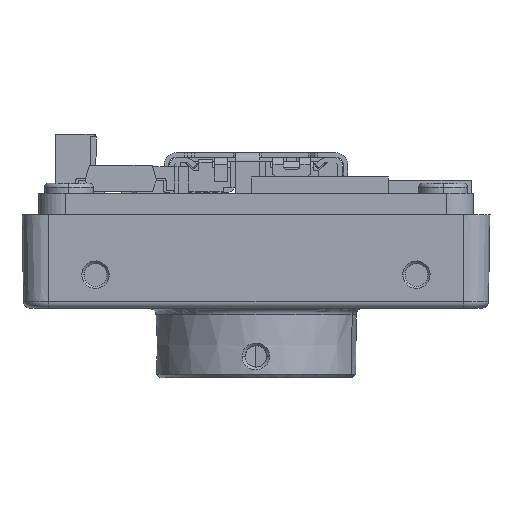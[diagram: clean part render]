
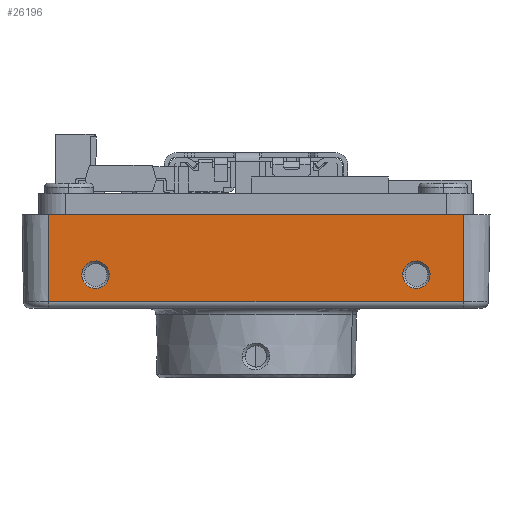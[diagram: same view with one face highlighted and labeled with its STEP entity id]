
A CAD part, left-side view. The second image highlights one B-rep face of the part: STEP entity #26196.
In plain terms, the highlighted planar face has unit normal (-1, 0, -0.018).
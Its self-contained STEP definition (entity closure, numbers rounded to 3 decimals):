
#934=DIRECTION('',(0.,1.,0.));
#935=VECTOR('',#934,31.);
#936=CARTESIAN_POINT('',(-17.386,-15.5,
-6.509));
#937=LINE('',#936,#935);
#938=DIRECTION('',(-0.017,0.,1.));
#939=VECTOR('',#938,6.51);
#940=CARTESIAN_POINT('',(-17.386,15.5,-6.509));
#941=LINE('',#940,#939);
#942=DIRECTION('',(0.,-1.,0.));
#943=VECTOR('',#942,31.);
#944=CARTESIAN_POINT('',(-17.5,15.5,0.));
#945=LINE('',#944,#943);
#951=DIRECTION('',(-0.017,0.,1.));
#952=VECTOR('',#951,6.51);
#953=CARTESIAN_POINT('',(-17.386,-15.5,
-6.509));
#954=LINE('',#953,#952);
#1519=CARTESIAN_POINT('',(-17.421,-13.021,
-4.5));
#1520=CARTESIAN_POINT('',(-17.42,-13.02,
-4.59));
#1521=CARTESIAN_POINT('',(-17.417,-12.994,
-4.763));
#1522=CARTESIAN_POINT('',(-17.413,-12.889,
-5.01));
#1523=CARTESIAN_POINT('',(-17.409,-12.724,
-5.219));
#1524=CARTESIAN_POINT('',(-17.406,-12.512,
-5.38));
#1525=CARTESIAN_POINT('',(-17.404,-12.264,
-5.481));
#1526=CARTESIAN_POINT('',(-17.404,-12.09,
-5.504));
#1527=CARTESIAN_POINT('',(-17.404,-12.,
-5.504));
#1529=CARTESIAN_POINT('',(-17.404,-12.,
-5.504));
#1530=CARTESIAN_POINT('',(-17.404,-11.91,
-5.504));
#1531=CARTESIAN_POINT('',(-17.404,-11.736,
-5.481));
#1532=CARTESIAN_POINT('',(-17.406,-11.488,
-5.38));
#1533=CARTESIAN_POINT('',(-17.409,-11.276,
-5.219));
#1534=CARTESIAN_POINT('',(-17.413,-11.111,
-5.01));
#1535=CARTESIAN_POINT('',(-17.417,-11.006,
-4.763));
#1536=CARTESIAN_POINT('',(-17.42,-10.98,
-4.59));
#1537=CARTESIAN_POINT('',(-17.421,-10.979,
-4.5));
#1539=CARTESIAN_POINT('',(-17.421,-10.979,
-4.5));
#1540=CARTESIAN_POINT('',(-17.423,-10.977,
-4.408));
#1541=CARTESIAN_POINT('',(-17.426,-10.998,
-4.23));
#1542=CARTESIAN_POINT('',(-17.431,-11.099,
-3.975));
#1543=CARTESIAN_POINT('',(-17.434,-11.263,
-3.757));
#1544=CARTESIAN_POINT('',(-17.437,-11.478,
-3.59));
#1545=CARTESIAN_POINT('',(-17.439,-11.73,
-3.484));
#1546=CARTESIAN_POINT('',(-17.44,-12.,
-3.448));
#1547=CARTESIAN_POINT('',(-17.439,-12.271,
-3.484));
#1548=CARTESIAN_POINT('',(-17.437,-12.522,
-3.59));
#1549=CARTESIAN_POINT('',(-17.434,-12.737,
-3.758));
#1550=CARTESIAN_POINT('',(-17.431,-12.901,
-3.976));
#1551=CARTESIAN_POINT('',(-17.426,-13.002,
-4.23));
#1552=CARTESIAN_POINT('',(-17.423,-13.023,
-4.408));
#1553=CARTESIAN_POINT('',(-17.421,-13.021,
-4.5));
#1601=CARTESIAN_POINT('',(-17.421,10.979,
-4.5));
#1602=CARTESIAN_POINT('',(-17.42,10.98,
-4.59));
#1603=CARTESIAN_POINT('',(-17.417,11.006,
-4.763));
#1604=CARTESIAN_POINT('',(-17.413,11.111,
-5.01));
#1605=CARTESIAN_POINT('',(-17.409,11.276,
-5.219));
#1606=CARTESIAN_POINT('',(-17.406,11.488,
-5.38));
#1607=CARTESIAN_POINT('',(-17.404,11.736,
-5.481));
#1608=CARTESIAN_POINT('',(-17.404,11.91,
-5.504));
#1609=CARTESIAN_POINT('',(-17.404,12.,
-5.504));
#1611=CARTESIAN_POINT('',(-17.404,12.,
-5.504));
#1612=CARTESIAN_POINT('',(-17.404,12.09,
-5.504));
#1613=CARTESIAN_POINT('',(-17.404,12.264,
-5.481));
#1614=CARTESIAN_POINT('',(-17.406,12.512,
-5.38));
#1615=CARTESIAN_POINT('',(-17.409,12.724,
-5.219));
#1616=CARTESIAN_POINT('',(-17.413,12.889,
-5.01));
#1617=CARTESIAN_POINT('',(-17.417,12.994,
-4.763));
#1618=CARTESIAN_POINT('',(-17.42,13.02,
-4.59));
#1619=CARTESIAN_POINT('',(-17.421,13.021,
-4.5));
#1621=CARTESIAN_POINT('',(-17.421,13.021,
-4.5));
#1622=CARTESIAN_POINT('',(-17.423,13.023,
-4.408));
#1623=CARTESIAN_POINT('',(-17.426,13.002,
-4.23));
#1624=CARTESIAN_POINT('',(-17.431,12.901,
-3.975));
#1625=CARTESIAN_POINT('',(-17.434,12.737,
-3.757));
#1626=CARTESIAN_POINT('',(-17.437,12.522,
-3.59));
#1627=CARTESIAN_POINT('',(-17.439,12.27,
-3.484));
#1628=CARTESIAN_POINT('',(-17.44,12.,
-3.448));
#1629=CARTESIAN_POINT('',(-17.439,11.729,
-3.484));
#1630=CARTESIAN_POINT('',(-17.437,11.478,
-3.59));
#1631=CARTESIAN_POINT('',(-17.434,11.263,
-3.758));
#1632=CARTESIAN_POINT('',(-17.431,11.099,
-3.976));
#1633=CARTESIAN_POINT('',(-17.426,10.998,
-4.23));
#1634=CARTESIAN_POINT('',(-17.423,10.977,
-4.408));
#1635=CARTESIAN_POINT('',(-17.421,10.979,
-4.5));
#23984=CARTESIAN_POINT('',(-17.5,15.5,0.));
#23986=VERTEX_POINT('',#23984);
#23998=CARTESIAN_POINT('',(-17.5,-15.5,0.));
#23999=VERTEX_POINT('',#23998);
#24016=CARTESIAN_POINT('',(-17.386,15.5,
-6.509));
#24017=VERTEX_POINT('',#24016);
#24066=CARTESIAN_POINT('',(-17.386,-15.5,-6.509));
#24067=VERTEX_POINT('',#24066);
#24068=VERTEX_POINT('',#1529);
#24069=VERTEX_POINT('',#1537);
#24070=VERTEX_POINT('',#1519);
#24071=VERTEX_POINT('',#1611);
#24072=VERTEX_POINT('',#1619);
#24073=VERTEX_POINT('',#1601);
#26168=CARTESIAN_POINT('',(-17.443,0.,
-3.254));
#26169=DIRECTION('',(1.,0.,0.017));
#26170=DIRECTION('',(0.,-1.,0.));
#26171=AXIS2_PLACEMENT_3D('',#26168,#26169,#26170);
#26172=PLANE('',#26171);
#26173=ORIENTED_EDGE('',*,*,#26162,.T.);
#26174=ORIENTED_EDGE('',*,*,#26009,.T.);
#26175=ORIENTED_EDGE('',*,*,#25933,.T.);
#26177=ORIENTED_EDGE('',*,*,#26176,.F.);
#26178=EDGE_LOOP('',(#26173,#26174,#26175,#26177));
#26179=FACE_OUTER_BOUND('',#26178,.F.);
#26181=ORIENTED_EDGE('',*,*,#26180,.F.);
#26183=ORIENTED_EDGE('',*,*,#26182,.F.);
#26185=ORIENTED_EDGE('',*,*,#26184,.F.);
#26186=EDGE_LOOP('',(#26181,#26183,#26185));
#26187=FACE_BOUND('',#26186,.F.);
#26189=ORIENTED_EDGE('',*,*,#26188,.F.);
#26191=ORIENTED_EDGE('',*,*,#26190,.F.);
#26193=ORIENTED_EDGE('',*,*,#26192,.F.);
#26194=EDGE_LOOP('',(#26189,#26191,#26193));
#26195=FACE_BOUND('',#26194,.F.);
#26196=ADVANCED_FACE('',(#26179,#26187,#26195),#26172,.F.);
#1528=B_SPLINE_CURVE_WITH_KNOTS('',3,(#1519,#1520,#1521,#1522,#1523,#1524,#1525,
#1526,#1527),.UNSPECIFIED.,.F.,.F.,(4,1,1,1,1,1,4),(0.,0.167,
0.333,0.5,0.667,0.833,1.),
.UNSPECIFIED.);
#1538=B_SPLINE_CURVE_WITH_KNOTS('',3,(#1529,#1530,#1531,#1532,#1533,#1534,#1535,
#1536,#1537),.UNSPECIFIED.,.F.,.F.,(4,1,1,1,1,1,4),(0.,0.167,
0.333,0.5,0.667,0.833,1.),
.UNSPECIFIED.);
#1554=B_SPLINE_CURVE_WITH_KNOTS('',3,(#1539,#1540,#1541,#1542,#1543,#1544,#1545,
#1546,#1547,#1548,#1549,#1550,#1551,#1552,#1553),.UNSPECIFIED.,.F.,.F.,(4,1,1,1,
1,1,1,1,1,1,1,1,4),(0.,0.083,0.167,0.25,
0.333,0.417,0.5,0.583,0.667,
0.75,0.833,0.917,1.),.UNSPECIFIED.);
#1610=B_SPLINE_CURVE_WITH_KNOTS('',3,(#1601,#1602,#1603,#1604,#1605,#1606,#1607,
#1608,#1609),.UNSPECIFIED.,.F.,.F.,(4,1,1,1,1,1,4),(0.,0.167,
0.333,0.5,0.667,0.833,1.),
.UNSPECIFIED.);
#1620=B_SPLINE_CURVE_WITH_KNOTS('',3,(#1611,#1612,#1613,#1614,#1615,#1616,#1617,
#1618,#1619),.UNSPECIFIED.,.F.,.F.,(4,1,1,1,1,1,4),(0.,0.167,
0.333,0.5,0.667,0.833,1.),
.UNSPECIFIED.);
#1636=B_SPLINE_CURVE_WITH_KNOTS('',3,(#1621,#1622,#1623,#1624,#1625,#1626,#1627,
#1628,#1629,#1630,#1631,#1632,#1633,#1634,#1635),.UNSPECIFIED.,.F.,.F.,(4,1,1,1,
1,1,1,1,1,1,1,1,4),(0.,0.083,0.167,0.25,
0.333,0.417,0.5,0.583,0.667,
0.75,0.833,0.917,1.),.UNSPECIFIED.);
#25933=EDGE_CURVE('',#23986,#23999,#945,.T.);
#26009=EDGE_CURVE('',#24017,#23986,#941,.T.);
#26162=EDGE_CURVE('',#24067,#24017,#937,.T.);
#26176=EDGE_CURVE('',#24067,#23999,#954,.T.);
#26180=EDGE_CURVE('',#24068,#24069,#1538,.T.);
#26182=EDGE_CURVE('',#24070,#24068,#1528,.T.);
#26184=EDGE_CURVE('',#24069,#24070,#1554,.T.);
#26188=EDGE_CURVE('',#24071,#24072,#1620,.T.);
#26190=EDGE_CURVE('',#24073,#24071,#1610,.T.);
#26192=EDGE_CURVE('',#24072,#24073,#1636,.T.);
